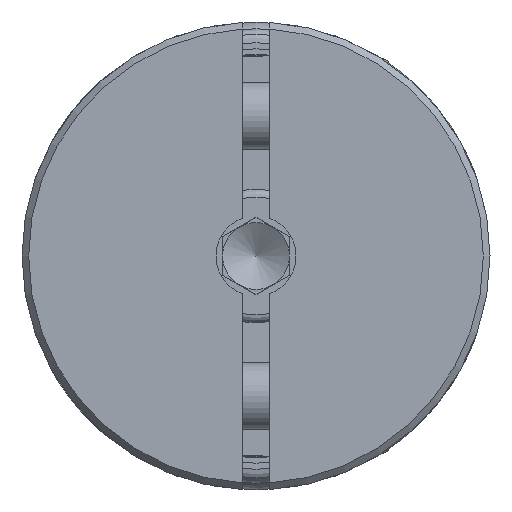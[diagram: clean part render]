
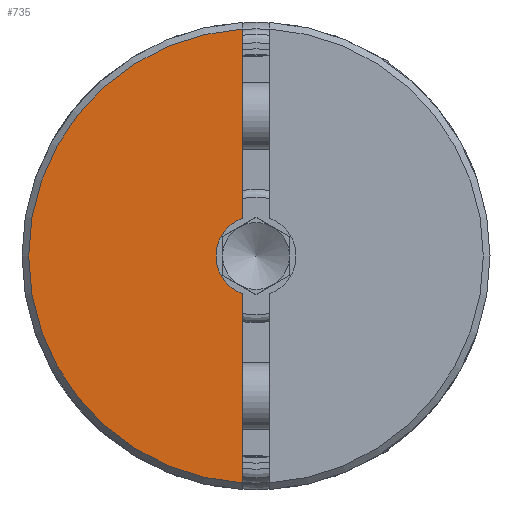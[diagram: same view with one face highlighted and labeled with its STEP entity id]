
A CAD part, left-side view. The second image highlights one B-rep face of the part: STEP entity #735.
In plain terms, the highlighted planar face has unit normal (-1, 0, 0).
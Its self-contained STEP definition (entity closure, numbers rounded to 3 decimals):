
#735 = ADVANCED_FACE( '', ( #1751 ), #1752, .T. );
#1751 = FACE_OUTER_BOUND( '', #3043, .T. );
#1752 = PLANE( '', #3044 );
#3043 = EDGE_LOOP( '', ( #5025, #5026, #5027, #5028 ) );
#3044 = AXIS2_PLACEMENT_3D( '', #5029, #5030, #5031 );
#5025 = ORIENTED_EDGE( '', *, *, #6317, .T. );
#5026 = ORIENTED_EDGE( '', *, *, #6435, .T. );
#5027 = ORIENTED_EDGE( '', *, *, #6602, .T. );
#5028 = ORIENTED_EDGE( '', *, *, #6658, .T. );
#5029 = CARTESIAN_POINT( '', ( -426., 0., -17.5 ) );
#5030 = DIRECTION( '', ( -1., 0., 0. ) );
#5031 = DIRECTION( '', ( 0., 0., -1. ) );
#6317 = EDGE_CURVE( '', #7304, #7302, #7305, .T. );
#6435 = EDGE_CURVE( '', #7302, #7501, #7502, .T. );
#6602 = EDGE_CURVE( '', #7501, #7773, #7774, .T. );
#6658 = EDGE_CURVE( '', #7773, #7304, #7863, .T. );
#7302 = VERTEX_POINT( '', #8687 );
#7304 = VERTEX_POINT( '', #8690 );
#7305 = CIRCLE( '', #8691, 17. );
#7501 = VERTEX_POINT( '', #9157 );
#7502 = LINE( '', #9158, #9159 );
#7773 = VERTEX_POINT( '', #9656 );
#7774 = CIRCLE( '', #9657, 3. );
#7863 = LINE( '', #9867, #9868 );
#8687 = CARTESIAN_POINT( '', ( -426., 1., -16.971 ) );
#8690 = CARTESIAN_POINT( '', ( -426., 1., 16.971 ) );
#8691 = AXIS2_PLACEMENT_3D( '', #10836, #10837, #10838 );
#9157 = CARTESIAN_POINT( '', ( -426., 1., -2.828 ) );
#9158 = CARTESIAN_POINT( '', ( -426., 1., -17.5 ) );
#9159 = VECTOR( '', #11011, 1000. );
#9656 = CARTESIAN_POINT( '', ( -426., 1., 2.828 ) );
#9657 = AXIS2_PLACEMENT_3D( '', #11224, #11225, #11226 );
#9867 = CARTESIAN_POINT( '', ( -426., 1., -17.5 ) );
#9868 = VECTOR( '', #11311, 1000. );
#10836 = CARTESIAN_POINT( '', ( -426., 0., 0. ) );
#10837 = DIRECTION( '', ( -1., 0., 0. ) );
#10838 = DIRECTION( '', ( 0., 1., 0. ) );
#11011 = DIRECTION( '', ( 0., 0., 1. ) );
#11224 = CARTESIAN_POINT( '', ( -426., 0., 0. ) );
#11225 = DIRECTION( '', ( 1., 0., 0. ) );
#11226 = DIRECTION( '', ( 0., -1., 0. ) );
#11311 = DIRECTION( '', ( 0., 0., 1. ) );
